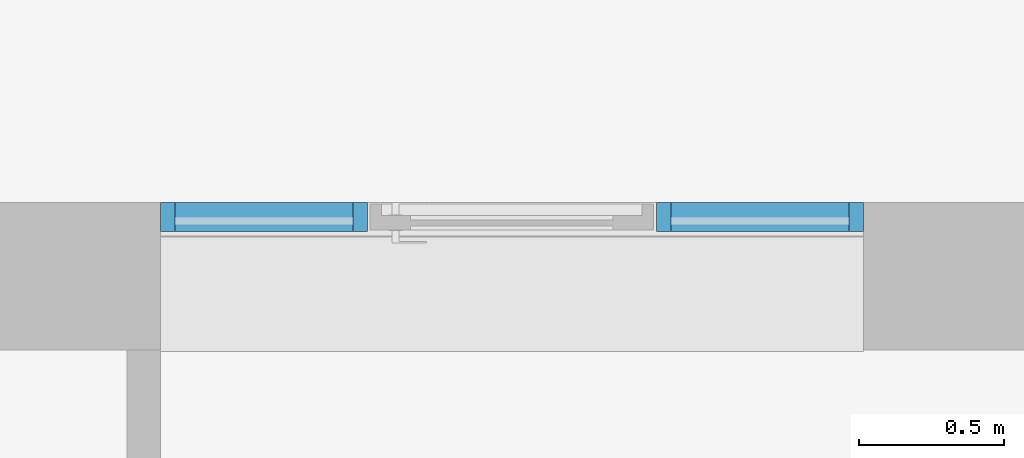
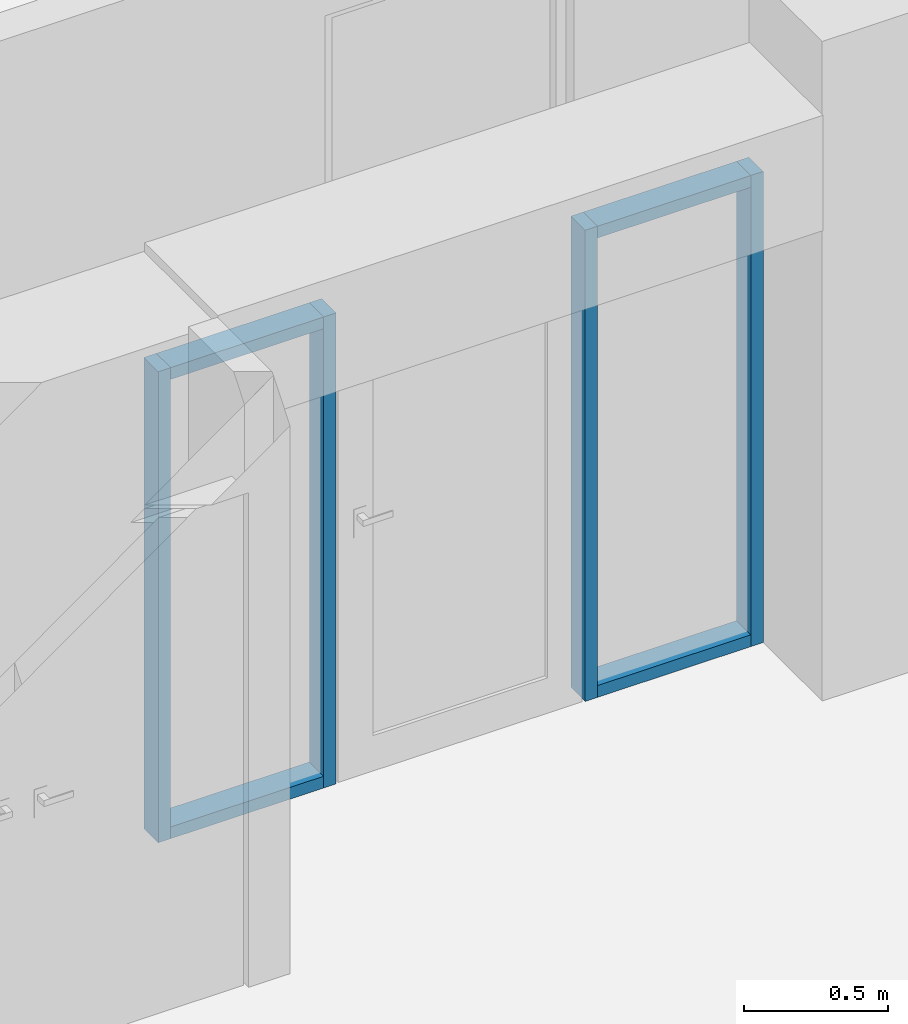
# One storey, part 1 of 23: 8 members, 1 element without a shape of its own.
"""IFC2X3 building model written with IfcOpenShell, lengths in millimetres."""

from ifc_helpers import new_model, entity, si_unit, converted_unit, derived_unit, direction, frame, origin, origin_2d_with_axis, place, context, subcontext, project, spatial, rectangle, extrude, source, transform, mapped, material, type_object, type_shapes, element, aggregate, save


model = new_model("IFC2X3")

# Units and contexts
model_context = context("Model", 3, precision=0.01, world=origin(), true_north=direction((6.12303176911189e-17, 1.0)))
body_context = subcontext(model_context, "Body", "Model", "MODEL_VIEW")
ifc_project = project(units=[si_unit("LENGTHUNIT", "METRE", prefix="MILLI"), si_unit("AREAUNIT", "SQUARE_METRE"), si_unit("VOLUMEUNIT", "CUBIC_METRE"), converted_unit("PLANEANGLEUNIT", "DEGREE", entity("IfcRatioMeasure", 0.0174532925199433), si_unit("PLANEANGLEUNIT", "RADIAN"), dimensions=[0, 0, 0, 0, 0, 0, 0]), si_unit("MASSUNIT", "GRAM", prefix="KILO"), derived_unit("MASSDENSITYUNIT", [(si_unit("MASSUNIT", "GRAM", prefix="KILO"), 1), (si_unit("LENGTHUNIT", "METRE"), -3)]), si_unit("TIMEUNIT", "SECOND"), si_unit("FREQUENCYUNIT", "HERTZ"), si_unit("THERMODYNAMICTEMPERATUREUNIT", "DEGREE_CELSIUS"), derived_unit("THERMALTRANSMITTANCEUNIT", [(si_unit("MASSUNIT", "GRAM", prefix="KILO"), 1), (si_unit("THERMODYNAMICTEMPERATUREUNIT", "KELVIN"), -1), (si_unit("TIMEUNIT", "SECOND"), -3)]), derived_unit("VOLUMETRICFLOWRATEUNIT", [(si_unit("LENGTHUNIT", "METRE"), 3), (si_unit("TIMEUNIT", "SECOND"), -1)]), si_unit("ELECTRICCURRENTUNIT", "AMPERE"), si_unit("ELECTRICVOLTAGEUNIT", "VOLT"), si_unit("POWERUNIT", "WATT"), si_unit("FORCEUNIT", "NEWTON", prefix="KILO"), si_unit("ILLUMINANCEUNIT", "LUX"), si_unit("LUMINOUSFLUXUNIT", "LUMEN"), si_unit("LUMINOUSINTENSITYUNIT", "CANDELA"), derived_unit("USERDEFINED", [(si_unit("MASSUNIT", "GRAM", prefix="KILO"), -1), (si_unit("LENGTHUNIT", "METRE"), -2), (si_unit("TIMEUNIT", "SECOND"), 3), (si_unit("LUMINOUSFLUXUNIT", "LUMEN"), 1)]), derived_unit("LINEARVELOCITYUNIT", [(si_unit("LENGTHUNIT", "METRE"), 1), (si_unit("TIMEUNIT", "SECOND"), -1)]), si_unit("PRESSUREUNIT", "PASCAL"), derived_unit("USERDEFINED", [(si_unit("LENGTHUNIT", "METRE"), -2), (si_unit("MASSUNIT", "GRAM", prefix="KILO"), 1), (si_unit("TIMEUNIT", "SECOND"), -2)]), derived_unit("LINEARFORCEUNIT", [(si_unit("MASSUNIT", "GRAM", prefix="KILO"), 1), (si_unit("LENGTHUNIT", "METRE"), 1), (si_unit("TIMEUNIT", "SECOND"), -2), (si_unit("LENGTHUNIT", "METRE"), -1)]), derived_unit("PLANARFORCEUNIT", [(si_unit("MASSUNIT", "GRAM", prefix="KILO"), 1), (si_unit("LENGTHUNIT", "METRE"), 1), (si_unit("TIMEUNIT", "SECOND"), -2), (si_unit("LENGTHUNIT", "METRE"), -2)])], contexts=[model_context])

# Site, building, storey
site_placement = place(None, origin())
site = spatial("IfcSite", under=ifc_project, at=site_placement, Name="Default", CompositionType="ELEMENT")
building_placement = place(site_placement, origin())
building = spatial("IfcBuilding", under=site, at=building_placement, Name="SMA ARH", CompositionType="ELEMENT")
storey_placement = place(building_placement, frame((0.0, 0.0, -2800.0)))
storey = spatial("IfcBuildingStorey", under=building, at=storey_placement, Name="0 Sokkel", CompositionType="ELEMENT", Elevation=-2800.0)

# Curtain wall, members
curtain_wall_type = type_object("IfcCurtainWallType", Name="Curtain Wall:Curtain Wall SKF-04", PredefinedType="NOTDEFINED")
curtain_wall_placement = place(storey_placement, frame((0.0, 0.0, 2800.0)))
curtain_wall = element("IfcCurtainWall", 1, at=curtain_wall_placement, inside=storey, type_object=curtain_wall_type, Name="Curtain Wall:Curtain Wall SKF-04", ObjectType="Curtain Wall:Curtain Wall SKF-04")
ifc_material = material(Name="__Aknaraam")
member_type_1 = type_object("IfcMemberType", Name="Rectangular Mullion:50 x 100mm", PredefinedType="MULLION", material=ifc_material)
shared_shape_1 = source(origin(), body_context, "Body", "SweptSolid", [
    extrude(rectangle(XDim=100.0, YDim=50.0, at=origin_2d_with_axis()), frame((-25.0, 0.0, -2000.0), z_axis=(0.0, 0.0, 1.0), x_axis=(0.0, -1.0, 0.0)), (0.0, 0.0, 1.0), 2000.0),
])
type_shapes(member_type_1, [shared_shape_1])
member_1_placement = place(storey_placement, frame((29789.524249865, 6470.0, 0.0), z_axis=(0.0, 0.0, -1.0), x_axis=(1.0, 0.0, 0.0)))
member_1 = element("IfcMember", 2, at=member_1_placement, type_object=member_type_1, material=ifc_material, Name="Rectangular Mullion:50 x 100mm", ObjectType="Rectangular Mullion:50 x 100mm", context=body_context, shape_type="MappedRepresentation", body=[
    mapped(shared_shape_1, transform((0.0, 0.0, 0.0), scale=1.0)),
])
member_2_placement = place(storey_placement, frame((28074.524249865, 6470.0, 0.0), z_axis=(0.0, 0.0, -1.0), x_axis=(1.0, 0.0, 0.0)))
member_2 = element("IfcMember", 3, at=member_2_placement, type_object=member_type_1, material=ifc_material, Name="Rectangular Mullion:50 x 100mm", ObjectType="Rectangular Mullion:50 x 100mm", context=body_context, shape_type="MappedRepresentation", body=[
    mapped(shared_shape_1, transform((0.0, 0.0, 0.0), scale=1.0)),
])
member_type_2 = type_object("IfcMemberType", Name="Rectangular Mullion:50 x 100mm", PredefinedType="MULLION", material=ifc_material)
shared_shape_2 = source(origin(), body_context, "Body", "SweptSolid", [
    extrude(rectangle(XDim=100.0, YDim=50.0, at=origin_2d_with_axis()), frame((-25.0, 0.0, -2000.0), z_axis=(0.0, 0.0, 1.0), x_axis=(0.0, -1.0, 0.0)), (0.0, 0.0, 1.0), 2000.0),
])
type_shapes(member_type_2, [shared_shape_2])
member_3_placement = place(storey_placement, frame((27360.0, 6470.0, 2000.0), z_axis=(0.0, 0.0, 1.0), x_axis=(-1.0, 0.0, 0.0)))
member_3 = element("IfcMember", 4, at=member_3_placement, type_object=member_type_2, material=ifc_material, Name="Rectangular Mullion:50 x 100mm", ObjectType="Rectangular Mullion:50 x 100mm", context=body_context, shape_type="MappedRepresentation", body=[
    mapped(shared_shape_2, transform((0.0, 0.0, 0.0), scale=1.0)),
])
member_4_placement = place(storey_placement, frame((29074.524249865, 6470.0, 2000.0), z_axis=(0.0, 0.0, 1.0), x_axis=(-1.0, 0.0, 0.0)))
member_4 = element("IfcMember", 5, at=member_4_placement, type_object=member_type_2, material=ifc_material, Name="Rectangular Mullion:50 x 100mm", ObjectType="Rectangular Mullion:50 x 100mm", context=body_context, shape_type="MappedRepresentation", body=[
    mapped(shared_shape_2, transform((0.0, 0.0, 0.0), scale=1.0)),
])
member_type_3 = type_object("IfcMemberType", Name="Rectangular Mullion:50 x 100mm", PredefinedType="MULLION", material=ifc_material)
shared_shape_3 = source(origin(), body_context, "Body", "SweptSolid", [
    extrude(rectangle(XDim=100.0, YDim=50.0, at=origin_2d_with_axis()), frame((-25.0, 0.0, -615.0), z_axis=(0.0, 0.0, 1.0), x_axis=(0.0, -1.0, 0.0)), (0.0, 0.0, 1.0), 615.000000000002),
])
type_shapes(member_type_3, [shared_shape_3])
member_5_placement = place(storey_placement, frame((29739.524249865, 6470.0, 2000.0), z_axis=(1.0, 0.0, 0.0), x_axis=(0.0, 0.0, 1.0)))
member_5 = element("IfcMember", 6, at=member_5_placement, type_object=member_type_3, material=ifc_material, Name="Rectangular Mullion:50 x 100mm", ObjectType="Rectangular Mullion:50 x 100mm", context=body_context, shape_type="MappedRepresentation", body=[
    mapped(shared_shape_3, transform((0.0, 0.0, 0.0), scale=1.0)),
])
member_type_4 = type_object("IfcMemberType", Name="Rectangular Mullion:50 x 100mm", PredefinedType="MULLION", material=ifc_material)
shared_shape_4 = source(origin(), body_context, "Body", "SweptSolid", [
    extrude(rectangle(XDim=100.0, YDim=50.0, at=origin_2d_with_axis()), frame((-25.0, 0.0, -614.524249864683), z_axis=(0.0, 0.0, 1.0), x_axis=(0.0, -1.0, 0.0)), (0.0, 0.0, 1.0), 614.524249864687),
])
type_shapes(member_type_4, [shared_shape_4])
member_6_placement = place(storey_placement, frame((28024.524249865, 6470.0, 2000.0), z_axis=(1.0, 0.0, 0.0), x_axis=(0.0, 0.0, 1.0)))
member_6 = element("IfcMember", 7, at=member_6_placement, type_object=member_type_4, material=ifc_material, Name="Rectangular Mullion:50 x 100mm", ObjectType="Rectangular Mullion:50 x 100mm", context=body_context, shape_type="MappedRepresentation", body=[
    mapped(shared_shape_4, transform((0.0, 0.0, 0.0), scale=1.0)),
])
member_type_5 = type_object("IfcMemberType", Name="Rectangular Mullion:50 x 100mm", PredefinedType="MULLION", material=ifc_material)
shared_shape_5 = source(origin(), body_context, "Body", "SweptSolid", [
    extrude(rectangle(XDim=100.0, YDim=50.0, at=origin_2d_with_axis()), frame((-25.0, 0.0, -615.0), z_axis=(0.0, 0.0, 1.0), x_axis=(0.0, -1.0, 0.0)), (0.0, 0.0, 1.0), 615.000000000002),
])
type_shapes(member_type_5, [shared_shape_5])
member_7_placement = place(storey_placement, frame((29124.524249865, 6470.0, 0.0), z_axis=(-1.0, 0.0, 0.0), x_axis=(0.0, 0.0, -1.0)))
member_7 = element("IfcMember", 8, at=member_7_placement, type_object=member_type_5, material=ifc_material, Name="Rectangular Mullion:50 x 100mm", ObjectType="Rectangular Mullion:50 x 100mm", context=body_context, shape_type="MappedRepresentation", body=[
    mapped(shared_shape_5, transform((0.0, 0.0, 0.0), scale=1.0)),
])
member_type_6 = type_object("IfcMemberType", Name="Rectangular Mullion:50 x 100mm", PredefinedType="MULLION", material=ifc_material)
shared_shape_6 = source(origin(), body_context, "Body", "SweptSolid", [
    extrude(rectangle(XDim=100.0, YDim=50.0, at=origin_2d_with_axis()), frame((-25.0, 0.0, -614.524249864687), z_axis=(0.0, 0.0, 1.0), x_axis=(0.0, -1.0, 0.0)), (0.0, 0.0, 1.0), 614.524249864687),
])
type_shapes(member_type_6, [shared_shape_6])
member_8_placement = place(storey_placement, frame((27410.0, 6470.0, 0.0), z_axis=(-1.0, 0.0, 0.0), x_axis=(0.0, 0.0, -1.0)))
member_8 = element("IfcMember", 9, at=member_8_placement, type_object=member_type_6, material=ifc_material, Name="Rectangular Mullion:50 x 100mm", ObjectType="Rectangular Mullion:50 x 100mm", context=body_context, shape_type="MappedRepresentation", body=[
    mapped(shared_shape_6, transform((0.0, 0.0, 0.0), scale=1.0)),
])
aggregate(curtain_wall, [member_1, member_3, member_5, member_6, member_2, member_4, member_7, member_8])

save(model, "model.ifc")
